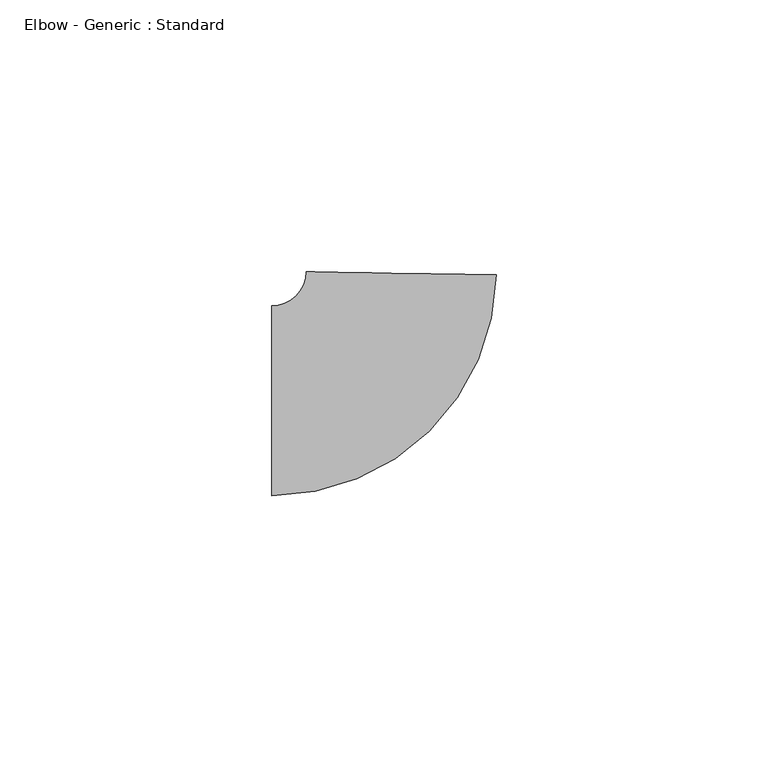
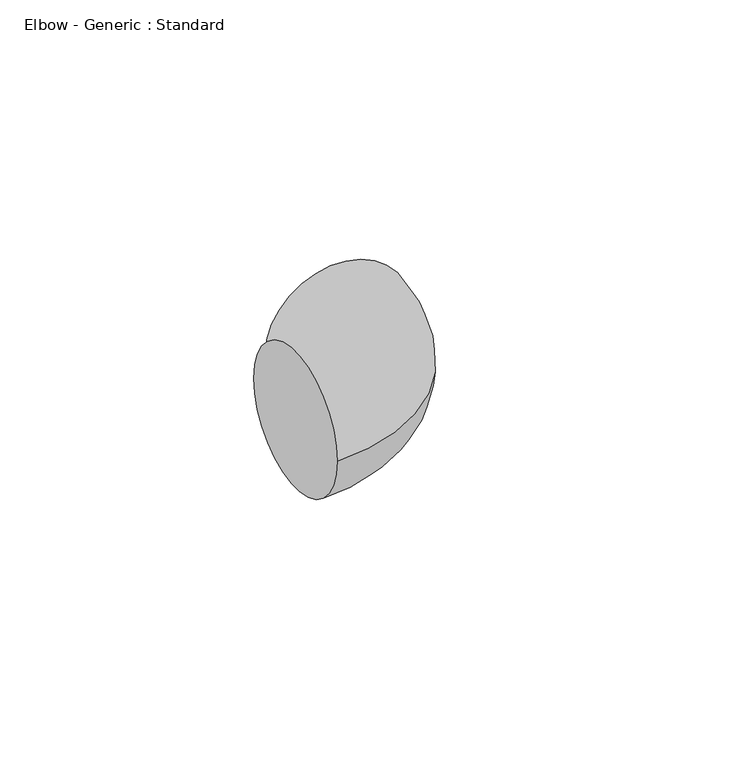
"""IFC4 building model written with IfcOpenShell, lengths in millimetres: pipe fitting geometry, Elbow - Generic : Standard."""

from ifc_helpers import new_model, si_unit, point, frame, origin, place, context, project, spatial, circle_curve, ellipse_curve, trimmed, source, transform, mapped, element, save
from ifc_brep_helpers import plane_surface, revolved_surface, advanced_brep


def elbow_generic_standard_b21686b2(model_context):
    return source(origin(), model_context, "Body", "AdvancedBrep", [
        advanced_brep(
        [(-23.429122, -17.4625, 0.0), (-23.429122, 17.4625, 0.0), (17.8404418, 23.1426295, 0.0), (-17.0799584, 23.709443, 0.0)],
        [
            (0, 1, circle_curve(frame((-23.429122, 0.0, 0.0), z_axis=(-1.0, 0.0, 0.0), x_axis=(0.0, 1.0, 0.0)), 17.4625)),
            (1, 0, circle_curve(frame((-23.429122, 0.0, 0.0), z_axis=(-1.0, 0.0, 0.0), x_axis=(0.0, 1.0, 0.0)), 17.4625)),
            (2, 3, circle_curve(frame((0.3802417, 23.4260363, 0.0), z_axis=(0.016229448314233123, 0.9998682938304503, 0.0), x_axis=(-0.9998682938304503, 0.016229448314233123, 0.0)), 17.4625)),
            (3, 2, circle_curve(frame((0.3802417, 23.4260363, 0.0), z_axis=(0.016229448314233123, 0.9998682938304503, 0.0), x_axis=(-0.9998682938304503, 0.016229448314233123, 0.0)), 17.4625)),
            (3, 1, circle_curve(frame((-23.429122, 23.8125, 0.0), z_axis=(0.0, 0.0, -1.0), x_axis=(0.0, -1.0, 0.0)), 6.35)),
            (0, 2, circle_curve(frame((-23.429122, 23.8125, 0.0), z_axis=(0.0, 0.0, 1.0), x_axis=(0.0, -1.0, 0.0)), 41.275)),
        ],
        [
            plane_surface(frame((-23.429122, 0.0, 0.0), z_axis=(-1.0, 0.0, 0.0), x_axis=(0.0, 0.0, 1.0))),
            plane_surface(frame((0.3802417, 23.4260363, 0.0), z_axis=(0.016229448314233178, 0.9998682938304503, 0.0), x_axis=(0.0, 0.0, 1.0))),
            revolved_surface(trimmed(ellipse_curve(frame((-23.429122, 0.0, 0.0), z_axis=(-1.0, 0.0, 0.0), x_axis=(0.0, 1.0, 0.0)), 17.4625, 17.4625), [point((-23.429122, -17.4625, 0.0))], [point((-23.429122, 17.4625, 0.0))], True, "CARTESIAN"), (-23.429122, 23.8125, 0.0), (0.0, 0.0, 1.0)),
            revolved_surface(trimmed(ellipse_curve(frame((-23.429122, 0.0, 0.0), z_axis=(-1.0, 0.0, 0.0), x_axis=(0.0, 1.0, 0.0)), 17.4625, 17.4625), [point((-23.429122, 17.4625, 0.0))], [point((-23.429122, -17.4625, 0.0))], True, "CARTESIAN"), (-23.429122, 23.8125, 0.0), (0.0, 0.0, 1.0)),
        ],
        [
            (0, [[1, 2]]),
            (1, [[3, 4]]),
            (2, [[5, -1, 6, -4]]),
            (3, [[-6, -2, -5, -3]]),
        ],
    ),
    ])


if __name__ == "__main__":
    model = new_model("IFC4")
    model_context = context("Model", 3, world=origin())
    ifc_project = project(units=[si_unit("LENGTHUNIT", "METRE", prefix="MILLI")], contexts=[model_context])
    site = spatial("IfcSite", under=ifc_project)
    building = spatial("IfcBuilding", under=site)
    placement = place(None, origin())
    elbow_generic_standard_shape = elbow_generic_standard_b21686b2(model_context)
    element("IfcPipeFitting", 1, ObjectType="Elbow - Generic : Standard", at=placement, inside=building, context=model_context, shape_type="MappedRepresentation", body=[
        mapped(elbow_generic_standard_shape, transform((0.0, 0.0, 0.0), x_axis=(1.0, 0.0, 0.0), y_axis=(0.0, 1.0, 0.0), z_axis=(0.0, 0.0, 1.0))),
    ])
    save(model, "model.ifc")
